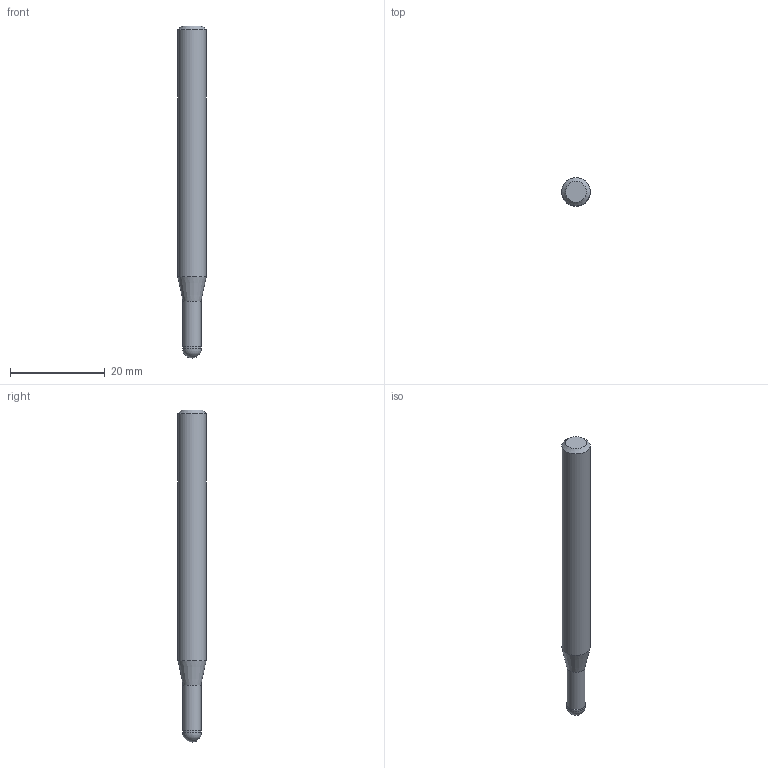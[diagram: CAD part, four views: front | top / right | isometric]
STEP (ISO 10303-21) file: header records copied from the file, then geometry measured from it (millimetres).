
FILE_DESCRIPTION((''),'2;1');
FILE_NAME('C:\Users\nsx150\AppData\Local\Temp\Mastercam 2021\LJSIDMOTM8\TEMP.step','2021-08-03T14:23:18',(''),(''),'STEP Write','Mastercam 2021 ... CNC Software, Inc.','');
FILE_SCHEMA(('AUTOMOTIVE_DESIGN'));
Length unit declared in the file: millimetre
Products named in the file (1): None
Bounding box: 6 x 6 x 70 mm (x, y, z)
Volume: 1718 mm3; surface area: 1264.5 mm2
Topology: 2 solids, 2 shells, 9 faces, 14 edges, 8 vertices
Faces by surface type: plane 3, cylinder 3, cone 2, sphere 1
Full cylindrical faces by diameter (mm): 3.8 x1, 4 x1, 6 x1
Entity records: 211 total; most frequent: DIRECTION 36, CARTESIAN_POINT 25, AXIS2_PLACEMENT_3D 18, ORIENTED_EDGE 14, EDGE_LOOP 14, STYLED_ITEM 12, ADVANCED_FACE 9, FACE_BOUND 8
